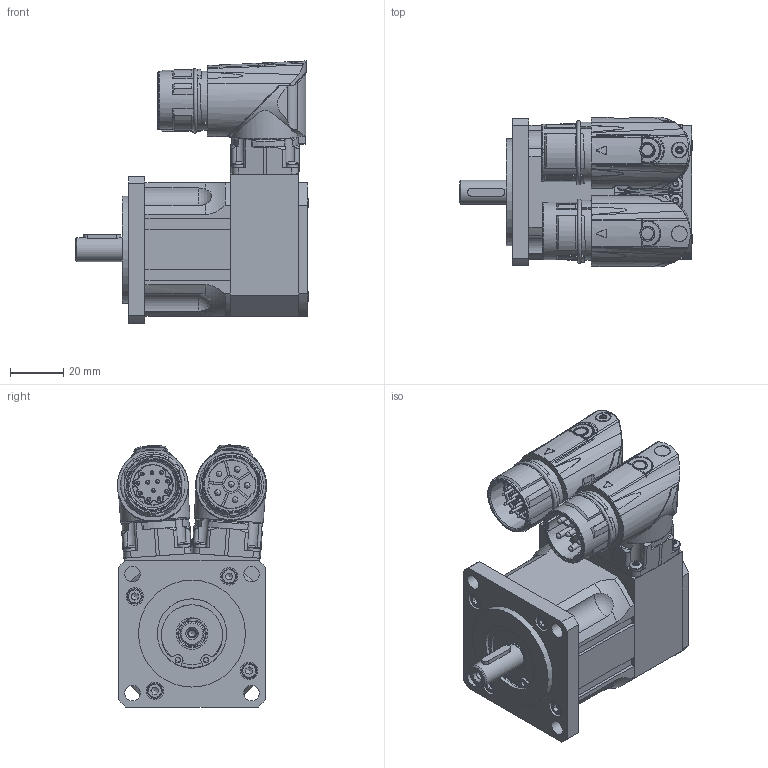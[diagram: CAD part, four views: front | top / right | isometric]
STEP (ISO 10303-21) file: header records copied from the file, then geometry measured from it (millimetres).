
FILE_DESCRIPTION(/* description */ (''),/* implementation_level */ '2;1');
FILE_NAME(/* name */ 'C:\Users\trn\Desktop\3D_Z\N2057 00 P Z_0028_S4_S1_6P_12P\N2057 00 P Z_0028_S4_S1_6P_12P.stp',/* time_stamp */ '2021-11-01T06:59:44+01:00',/* author */ ('trn'),/* organization */ (''),/* preprocessor_version */ 'ST-DEVELOPER v18.1',/* originating_system */ 'Autodesk Inventor 2021',/* authorisation */ '');
FILE_SCHEMA (('AUTOMOTIVE_DESIGN { 1 0 10303 214 3 1 1 }'));
Products named in the file (9): N2057 00 P Z_0028_S4_S1_6P_12P; N2057 00 P Z_front; N2057 00 P Z_0028_rear; AED_0201_12-polig, Stift; 124888; 127323; BED_0201 Flansch 25x25  6-polig mit Stiften; 124953; 124888_1
Assembly tree (8 placements, depth 3):
  N2057 00 P Z_0028_S4_S1_6P_12P
    N2057 00 P Z_front
    N2057 00 P Z_0028_rear
    AED_0201_12-polig, Stift
      124888
      127323
    BED_0201 Flansch 25x25  6-polig mit Stiften
      124953
      124888_1
Bounding box: 87.2 x 55.79 x 98.11 mm (x, y, z)
Volume: 226984.7 mm3; surface area: 54147.4 mm2
Topology: 6 solids, 7 shells, 1756 faces, 4676 edges, 2975 vertices
Faces by surface type: cylinder 774, plane 495, bspline 258, cone 112, torus 81, sphere 36
Full cylindrical faces by diameter (mm): 1 x12, 1.18 x12, 1.2 x12, 2 x8, 2.013 x2, 2.15 x6, 2.208 x8, 2.4 x8, 2.459 x1, 2.5 x8, 2.7 x4, 2.8 x4, 3 x5, 3.1 x4, 3.2 x2, 3.3 x4, 4.5 x2, 5.5 x6, 5.6 x4, 5.8 x4, 5.9 x2, 6.5 x8, 7.53 x1, 9 x1, 9.5 x1, 10 x1, 10.2 x2, 15.2 x1, 17.4 x1, 17.955 x1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
Entity records: 70659 total; most frequent: CARTESIAN_POINT 25260, ORIENTED_EDGE 9260, DIRECTION 9070, EDGE_CURVE 4630, AXIS2_PLACEMENT_3D 3760, VERTEX_POINT 2975, CIRCLE 2058, EDGE_LOOP 1953
